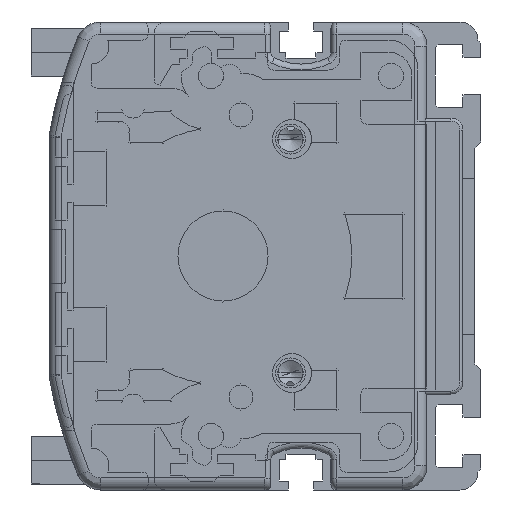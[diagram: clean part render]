
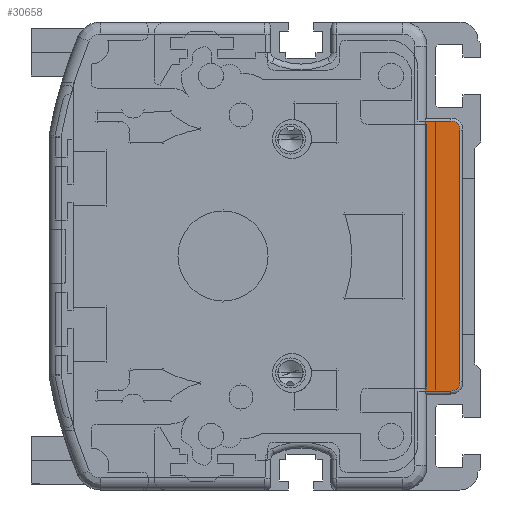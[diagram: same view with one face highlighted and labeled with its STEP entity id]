
A CAD part, left-side view. The second image highlights one B-rep face of the part: STEP entity #30658.
In plain terms, the highlighted planar face has unit normal (-1, 0, 0).
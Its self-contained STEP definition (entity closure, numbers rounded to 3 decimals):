
#25211=DIRECTION('',(0.,0.,-1.));
#25212=VECTOR('',#25211,45.);
#25213=CARTESIAN_POINT('',(-2.,10.268,22.5));
#25214=LINE('',#25213,#25212);
#25246=CARTESIAN_POINT('',(-2.,6.,21.));
#25247=DIRECTION('',(1.,0.,0.));
#25248=DIRECTION('',(0.,0.,1.));
#25249=AXIS2_PLACEMENT_3D('',#25246,#25247,#25248);
#25251=CARTESIAN_POINT('',(-2.,6.,-21.));
#25252=DIRECTION('',(1.,0.,0.));
#25253=DIRECTION('',(0.,-1.,0.));
#25254=AXIS2_PLACEMENT_3D('',#25251,#25252,#25253);
#25260=DIRECTION('',(0.,-1.,0.));
#25261=VECTOR('',#25260,4.268);
#25262=CARTESIAN_POINT('',(-2.,10.268,-22.5));
#25263=LINE('',#25262,#25261);
#25796=DIRECTION('',(0.,0.,1.));
#25797=VECTOR('',#25796,42.);
#25798=CARTESIAN_POINT('',(-2.,4.5,-21.));
#25799=LINE('',#25798,#25797);
#25819=DIRECTION('',(0.,1.,0.));
#25820=VECTOR('',#25819,4.268);
#25821=CARTESIAN_POINT('',(-2.,6.,22.5));
#25822=LINE('',#25821,#25820);
#29105=CARTESIAN_POINT('',(-2.,10.268,22.5));
#29106=CARTESIAN_POINT('',(-2.,10.268,-22.5));
#29107=VERTEX_POINT('',#29105);
#29108=VERTEX_POINT('',#29106);
#29118=CARTESIAN_POINT('',(-2.,6.,-22.5));
#29119=VERTEX_POINT('',#29118);
#29120=CARTESIAN_POINT('',(-2.,4.5,-21.));
#29121=VERTEX_POINT('',#29120);
#29122=CARTESIAN_POINT('',(-2.,4.5,21.));
#29123=VERTEX_POINT('',#29122);
#29124=CARTESIAN_POINT('',(-2.,6.,
22.5));
#29125=VERTEX_POINT('',#29124);
#30640=CARTESIAN_POINT('',(-2.,7.384,0.));
#30641=DIRECTION('',(1.,0.,0.));
#30642=DIRECTION('',(0.,0.,-1.));
#30643=AXIS2_PLACEMENT_3D('',#30640,#30641,#30642);
#30644=PLANE('',#30643);
#30646=ORIENTED_EDGE('',*,*,#30645,.F.);
#30647=ORIENTED_EDGE('',*,*,#30619,.F.);
#30649=ORIENTED_EDGE('',*,*,#30648,.F.);
#30651=ORIENTED_EDGE('',*,*,#30650,.T.);
#30653=ORIENTED_EDGE('',*,*,#30652,.F.);
#30655=ORIENTED_EDGE('',*,*,#30654,.T.);
#30656=EDGE_LOOP('',(#30646,#30647,#30649,#30651,#30653,#30655));
#30657=FACE_OUTER_BOUND('',#30656,.F.);
#30658=ADVANCED_FACE('',(#30657),#30644,.F.);
#25250=CIRCLE('',#25249,1.5);
#25255=CIRCLE('',#25254,1.5);
#30619=EDGE_CURVE('',#29107,#29108,#25214,.T.);
#30645=EDGE_CURVE('',#29108,#29119,#25263,.T.);
#30648=EDGE_CURVE('',#29125,#29107,#25822,.T.);
#30650=EDGE_CURVE('',#29125,#29123,#25250,.T.);
#30652=EDGE_CURVE('',#29121,#29123,#25799,.T.);
#30654=EDGE_CURVE('',#29121,#29119,#25255,.T.);
